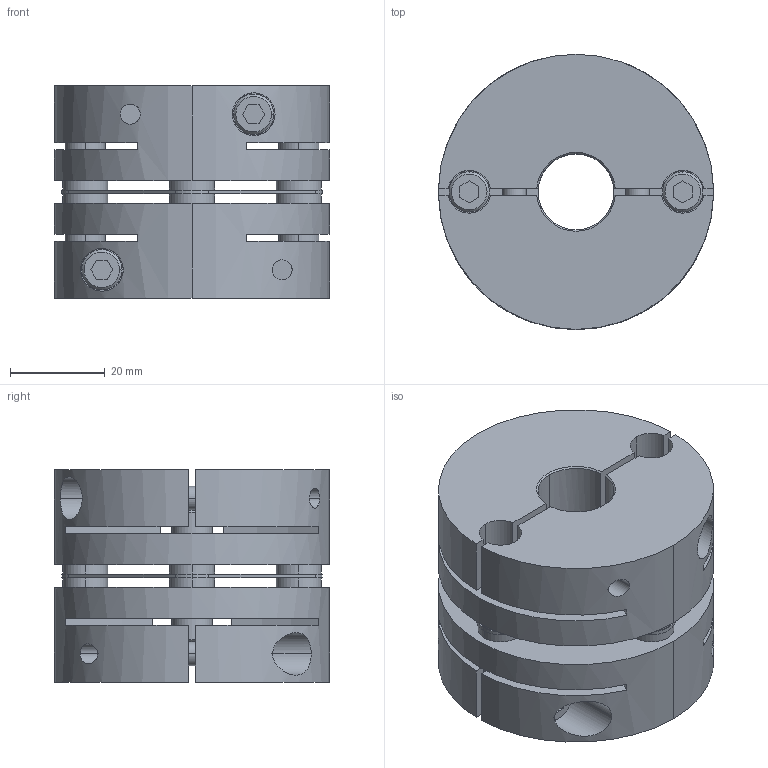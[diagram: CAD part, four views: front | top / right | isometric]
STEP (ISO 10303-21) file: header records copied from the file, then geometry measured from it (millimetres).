
FILE_DESCRIPTION((''),'2;1');
FILE_NAME('LAS-58C-16×19.stp','2011-08-09T15:28:00',(''),(''),'AutoCAD STEP 2000i','AutoCAD 2000i',', , ');
FILE_SCHEMA(('CONFIG_CONTROL_DESIGN'));
Length unit declared in the file: millimetre
Products named in the file (6): LAS-58C-12×19; 忣兜1; LA-5802-D19; LA-5802-D12-1; LA-5802-D12; LAS58-ITA
Assembly tree (5 placements, depth 2):
  LAS-58C-12×19
    忣兜1
    LA-5802-D19
    LA-5802-D12-1
    LA-5802-D12
    LAS58-ITA
Bounding box: 58 x 58 x 44.8 mm (x, y, z)
Volume: 86760.2 mm3; surface area: 33267.2 mm2
Topology: 1 solids, 1 shells, 238 faces, 618 edges, 404 vertices
Faces by surface type: plane 114, cylinder 96, cone 28
Entity records: 8213 total; most frequent: CARTESIAN_POINT 1988, DIRECTION 1316, ORIENTED_EDGE 1240, EDGE_CURVE 620, AXIS2_PLACEMENT_3D 484, VERTEX_POINT 404, VECTOR 348, LINE 348
